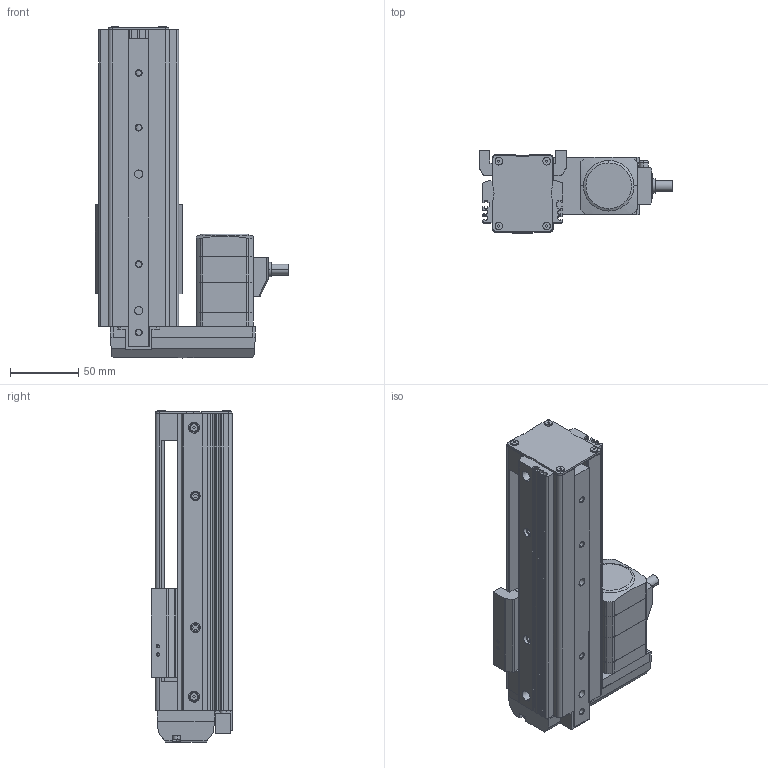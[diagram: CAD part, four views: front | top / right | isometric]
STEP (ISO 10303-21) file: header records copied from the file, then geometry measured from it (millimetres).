
FILE_DESCRIPTION (( 'STEP AP203' ), '1' );
FILE_NAME ('EASM4LXD010ARAK.step', '2013-10-10T04:39:00', ( 'om' ), ( 'Hewlett-Packard Company' ), 'SwSTEP 2.0', 'SolidWorks 2011', '' );
FILE_SCHEMA (( 'CONFIG_CONTROL_DESIGN' ));
Length unit declared in the file: millimetre
Products named in the file (4): EASM4LXD010ARAK_Table; EASM4LXD010ARAK; EASM4LXD010ARAK_Motor; EASM4LXD010ARAK_BASE
Assembly tree (3 placements, depth 2):
  EASM4LXD010ARAK
    EASM4LXD010ARAK_BASE
    EASM4LXD010ARAK_Motor
    EASM4LXD010ARAK_Table
Bounding box: 142 x 60 x 243.1 mm (x, y, z)
Volume: 617877.2 mm3; surface area: 168407.1 mm2
Topology: 3 solids, 13 shells, 955 faces, 2474 edges, 1599 vertices
Faces by surface type: plane 538, cylinder 337, cone 60, torus 16, bspline 4
Entity records: 29658 total; most frequent: CARTESIAN_POINT 5290, DIRECTION 5083, ORIENTED_EDGE 4900, EDGE_CURVE 2450, AXIS2_PLACEMENT_3D 1708, LINE 1667, VECTOR 1667, VERTEX_POINT 1599
